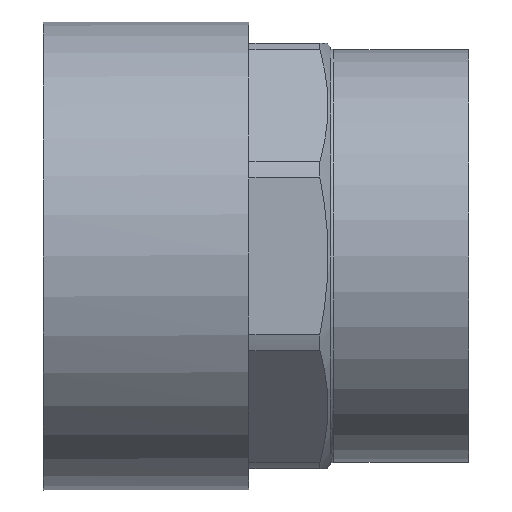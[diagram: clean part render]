
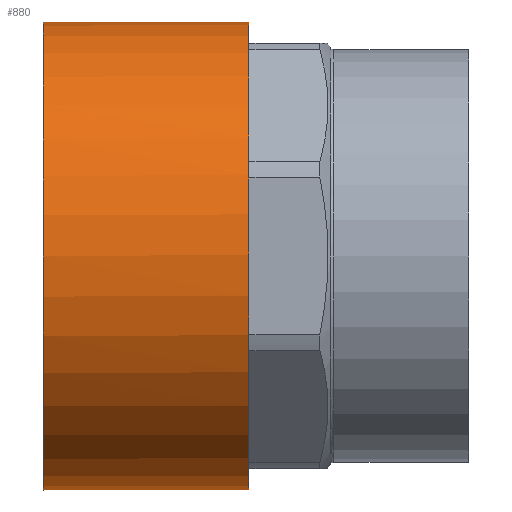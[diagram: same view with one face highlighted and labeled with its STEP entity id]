
A CAD part, front view. The second image highlights one B-rep face of the part: STEP entity #880.
In plain terms, the highlighted cylindrical face has radius 33 mm (diameter 66 mm), a full revolution.
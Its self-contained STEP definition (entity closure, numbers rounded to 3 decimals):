
#706=CARTESIAN_POINT('',(0.,33.,0.0));
#707=VERTEX_POINT('',#706);
#708=CARTESIAN_POINT('',(0.,0.,0.0));
#709=DIRECTION('',(1.0,0.0,0.0));
#710=DIRECTION('',(0.0,1.0,0.0));
#711=AXIS2_PLACEMENT_3D('',#708,#709,#710);
#712=CIRCLE('',#711,33.);
#713=EDGE_CURVE('',#707,#707,#712,.T.);
#861=CARTESIAN_POINT('',(14.5,0.,0.0));
#862=DIRECTION('',(1.0,0.,0.0));
#863=DIRECTION('',(0.0,1.0,0.0));
#864=AXIS2_PLACEMENT_3D('',#861,#862,#863);
#865=CYLINDRICAL_SURFACE('',#864,33.);
#866=CARTESIAN_POINT('',(29.,11.492,30.934));
#867=VERTEX_POINT('',#866);
#868=CARTESIAN_POINT('',(29.0,0.,0.0));
#869=DIRECTION('',(1.0,0.0,0.0));
#870=DIRECTION('',(0.0,1.0,0.0));
#871=AXIS2_PLACEMENT_3D('',#868,#869,#870);
#872=CIRCLE('',#871,33.0);
#873=EDGE_CURVE('',#867,#867,#872,.T.);
#874=ORIENTED_EDGE('',*,*,#873,.F.);
#875=EDGE_LOOP('',(#874));
#876=FACE_OUTER_BOUND('',#875,.T.);
#877=ORIENTED_EDGE('',*,*,#713,.T.);
#878=EDGE_LOOP('',(#877));
#879=FACE_BOUND('',#878,.T.);
#880=ADVANCED_FACE('',(#876,#879),#865,.T.);
